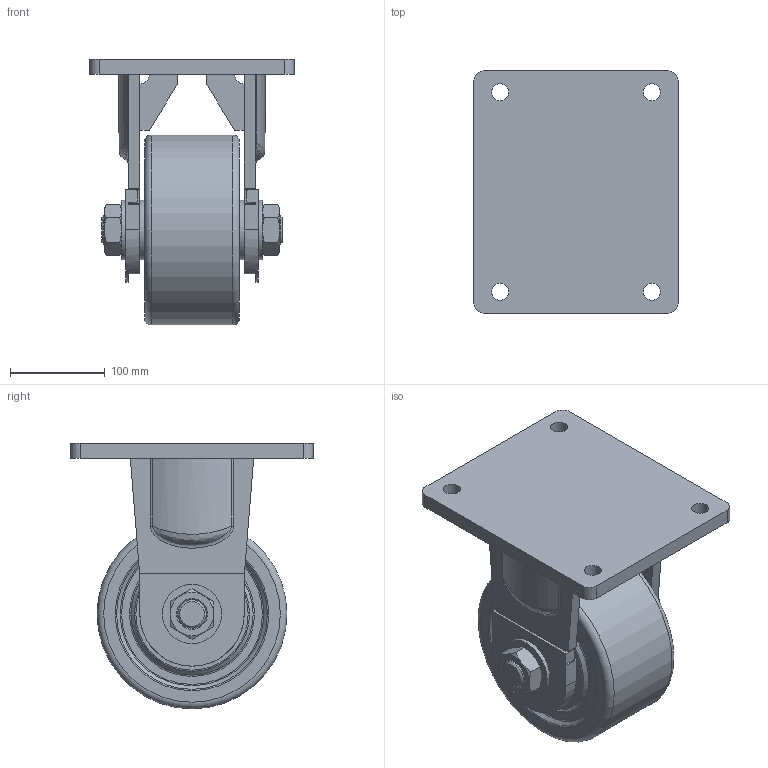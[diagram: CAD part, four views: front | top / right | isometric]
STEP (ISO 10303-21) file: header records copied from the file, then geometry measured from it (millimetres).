
FILE_DESCRIPTION((''),'2;1');
FILE_NAME('C:\Documents and Settings\Administrator\바탕 화면\3D STEP\UGXT-SERIES\UGXT-200\UGXT-200-RF.stp','2010-12-27T15:18:09',('Administrator'),(''),'Autodesk Inventor 2009','Autodesk Inventor 2009','');
FILE_SCHEMA(('AUTOMOTIVE_DESIGN { 1 0 10303 214 1 1 1 1 }'));
Length unit declared in the file: millimetre
Products named in the file (1): UGXT-200-RF
Bounding box: 215 x 255 x 280 mm (x, y, z)
Volume: 4480699.8 mm3; surface area: 456233.8 mm2
Topology: 8 solids, 8 shells, 281 faces, 676 edges, 427 vertices
Faces by surface type: plane 126, cylinder 81, cone 28, bspline 24, torus 22
Full cylindrical faces by diameter (mm): 1 x2, 18 x4, 30 x4, 30.5 x2, 38 x2, 38.5 x2, 50 x6, 60 x1, 62.5 x4, 63.334 x6, 76.666 x6, 78 x1, 90 x6, 200.001 x1
Entity records: 9620 total; most frequent: CARTESIAN_POINT 3656, DIRECTION 1228, ORIENTED_EDGE 1072, EDGE_CURVE 536, AXIS2_PLACEMENT_3D 482, EDGE_LOOP 432, VERTEX_POINT 394, FACE_OUTER_BOUND 281
